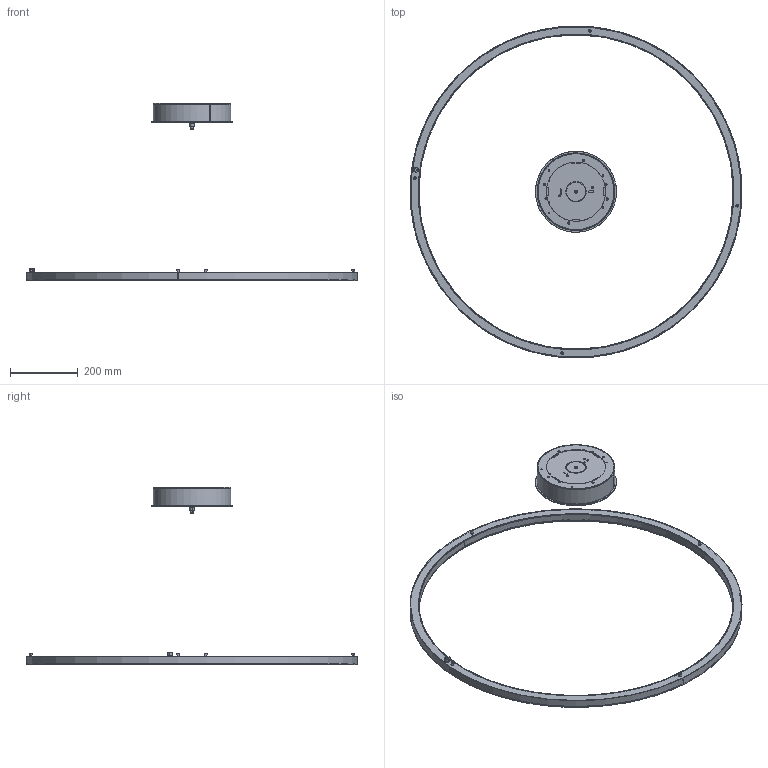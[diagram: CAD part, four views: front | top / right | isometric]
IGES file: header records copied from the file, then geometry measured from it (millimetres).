
Start section: SolidWorks IGES file using analytic representation for surfaces
Global section: file name: W:\FILE_leo_generati smartwork\1-4-20\circus_1000\circus_1000.IGS; native system: SolidWorks 2019; preprocessor: SolidWorks 2019; author: leonardo.cogo; date: 200401.100722; units: millimetre
Bounding box: 982.91 x 982.91 x 525.1 mm (x, y, z)
Surface area: 925068.7 mm2 (no closed solid volume)
Topology: 0 solids, 0 shells, 473 faces, 8699 edges, 8699 vertices
Faces by surface type: revolution 296, bspline 177
